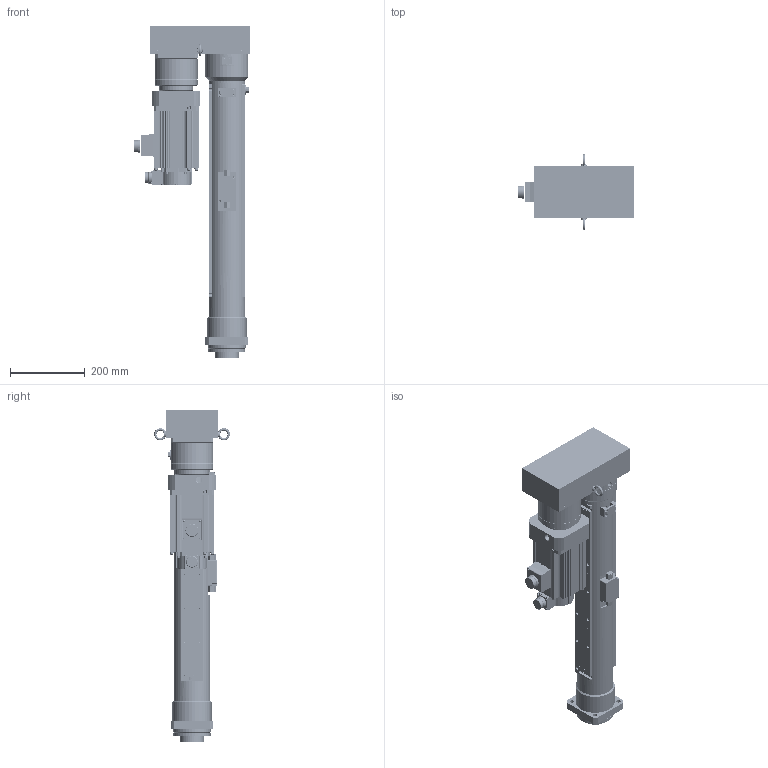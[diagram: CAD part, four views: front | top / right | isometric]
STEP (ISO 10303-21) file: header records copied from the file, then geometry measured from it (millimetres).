
FILE_DESCRIPTION( ('This file contains a STEP AP42 implementation' ,'as created by ZW3D STEP Interface translator.') ,'2;1' );
FILE_NAME( 'OACIS-DC-P025-P030-500-200-A6V200_V20.51.stp' ,'26 422.133340', (''), ('ZWCAD Software Co.'), 'Version 1.0', 'ZW3D to STEP translator', '' );
FILE_SCHEMA(('AUTOMOTIVE_DESIGN { 1 0 10303 214 1 1 1 1 }'));
Length unit declared in the file: millimetre
Products named in the file (1): 0
Bounding box: 311 x 202.6 x 888 mm (x, y, z)
Volume: 8569760.7 mm3; surface area: 1785933.7 mm2
Topology: 51 solids, 56 shells, 3232 faces, 8255 edges, 5391 vertices
Faces by surface type: cylinder 1532, plane 1228, cone 341, torus 100, sphere 21, bspline 10
Full cylindrical faces by diameter (mm): 1.6 x8, 2.459 x5, 2.75 x4, 3.2 x5, 3.242 x10, 3.3 x102, 4 x8, 4.134 x14, 4.2 x4, 4.3 x36, 4.5 x4, 5 x36, 5.5 x4, 5.6 x5, 6.6 x14, 6.647 x4, 6.8 x42, 7 x12, 8 x44, 8.4 x8, 8.5 x35, 9 x8, 9.5 x4, 10 x8, 10.106 x1, 11 x12, 12 x1, 15 x8, 15.5 x2, 16.5 x2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
Entity records: 107747 total; most frequent: CARTESIAN_POINT 21634, DIRECTION 18439, ORIENTED_EDGE 16268, EDGE_CURVE 8142, AXIS2_PLACEMENT_3D 7312, VERTEX_POINT 5328, CIRCLE 4066, EDGE_LOOP 3891
